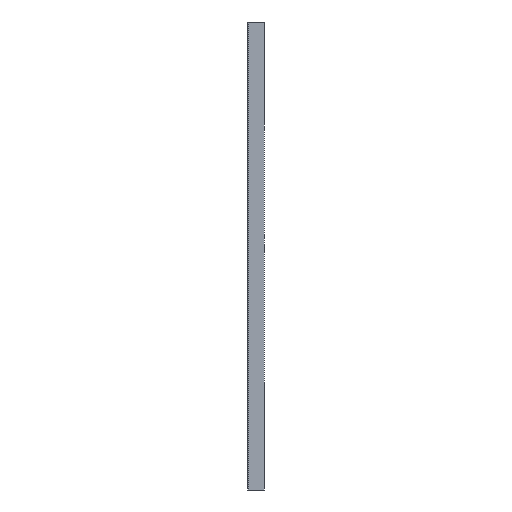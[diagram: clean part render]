
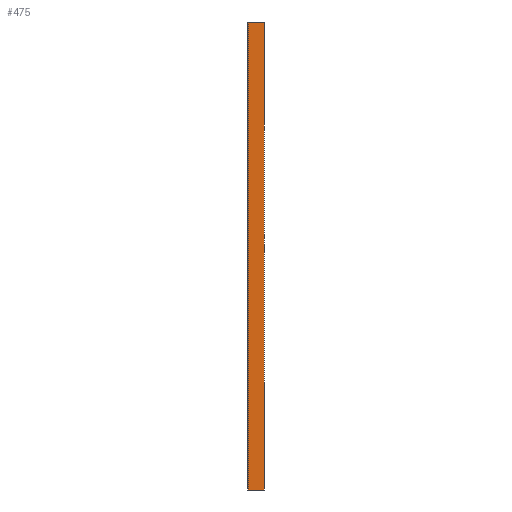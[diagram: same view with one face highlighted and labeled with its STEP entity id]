
A CAD part, left-side view. The second image highlights one B-rep face of the part: STEP entity #475.
In plain terms, the highlighted planar face has unit normal (-1, 0, 0).
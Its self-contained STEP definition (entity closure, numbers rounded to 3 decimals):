
#95 = DIRECTION ( 'NONE',  ( 0., 1., 0. ) ) ;
#131 = DIRECTION ( 'NONE',  ( -1., 0., 0. ) ) ;
#157 = VERTEX_POINT ( 'NONE', #818 ) ;
#192 = LINE ( 'NONE', #686, #641 ) ;
#203 = CARTESIAN_POINT ( 'NONE',  ( -405.5, -20., 30. ) ) ;
#231 = DIRECTION ( 'NONE',  ( 0., 0., 1. ) ) ;
#302 = VECTOR ( 'NONE', #879, 1000. ) ;
#323 = ORIENTED_EDGE ( 'NONE', *, *, #601, .F. ) ;
#354 = VECTOR ( 'NONE', #928, 1000. ) ;
#379 = EDGE_LOOP ( 'NONE', ( #536, #323, #918, #740 ) ) ;
#387 = CARTESIAN_POINT ( 'NONE',  ( -405.5, -20., -534. ) ) ;
#460 = CARTESIAN_POINT ( 'NONE',  ( -405.5, 0., 30. ) ) ;
#475 = ADVANCED_FACE ( 'NONE', ( #987 ), #726, .T. ) ;
#519 = VERTEX_POINT ( 'NONE', #605 ) ;
#536 = ORIENTED_EDGE ( 'NONE', *, *, #793, .F. ) ;
#540 = AXIS2_PLACEMENT_3D ( 'NONE', #387, #131, #560 ) ;
#560 = DIRECTION ( 'NONE',  ( 0., 0., 1. ) ) ;
#561 = LINE ( 'NONE', #203, #302 ) ;
#585 = CARTESIAN_POINT ( 'NONE',  ( -405.5, 0., -534. ) ) ;
#601 = EDGE_CURVE ( 'NONE', #519, #909, #192, .T. ) ;
#605 = CARTESIAN_POINT ( 'NONE',  ( -405.5, -20., -534. ) ) ;
#641 = VECTOR ( 'NONE', #95, 1000. ) ;
#686 = CARTESIAN_POINT ( 'NONE',  ( -405.5, -20., -534. ) ) ;
#721 = EDGE_CURVE ( 'NONE', #519, #157, #1010, .T. ) ;
#726 = PLANE ( 'NONE',  #540 ) ;
#740 = ORIENTED_EDGE ( 'NONE', *, *, #994, .T. ) ;
#745 = LINE ( 'NONE', #585, #354 ) ;
#752 = CARTESIAN_POINT ( 'NONE',  ( -405.5, -20., -534. ) ) ;
#793 = EDGE_CURVE ( 'NONE', #909, #1070, #745, .T. ) ;
#812 = VECTOR ( 'NONE', #231, 1000. ) ;
#818 = CARTESIAN_POINT ( 'NONE',  ( -405.5, -20., 30. ) ) ;
#879 = DIRECTION ( 'NONE',  ( 0., 1., 0. ) ) ;
#909 = VERTEX_POINT ( 'NONE', #945 ) ;
#918 = ORIENTED_EDGE ( 'NONE', *, *, #721, .T. ) ;
#928 = DIRECTION ( 'NONE',  ( 0., 0., 1. ) ) ;
#945 = CARTESIAN_POINT ( 'NONE',  ( -405.5, 0., -534. ) ) ;
#987 = FACE_OUTER_BOUND ( 'NONE', #379, .T. ) ;
#994 = EDGE_CURVE ( 'NONE', #157, #1070, #561, .T. ) ;
#1010 = LINE ( 'NONE', #752, #812 ) ;
#1070 = VERTEX_POINT ( 'NONE', #460 ) ;
